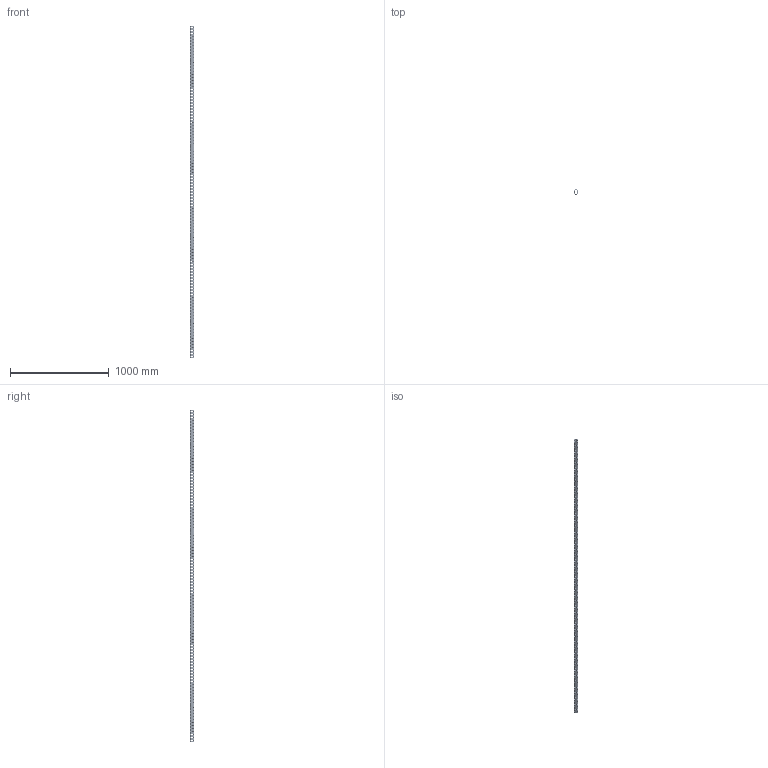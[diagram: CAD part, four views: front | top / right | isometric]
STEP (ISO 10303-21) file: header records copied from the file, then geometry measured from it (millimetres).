
FILE_DESCRIPTION(('CATIA V5 STEP Exchange'),'2;1');
FILE_NAME('U:\Room\唐宝山\EGT002\46-01-010341-01-EGT002-3358.stp','2021-08-24T07:32:31+00:00',('none'),('none'),'CATIA Version 5 Release 21 GA (IN-10)','CATIA V5 STEP AP203','none');
FILE_SCHEMA(('CONFIG_CONTROL_DESIGN'));
Products named in the file (1): 46-01-010341-01-EGT002-3358
Bounding box: 50 x 50 x 3358 mm (x, y, z)
Volume: 2392731.5 mm3; surface area: 1152341.2 mm2
Topology: 1 solids, 1 shells, 4564 faces, 12566 edges, 7780 vertices
Faces by surface type: cone 2688, cylinder 1850, plane 26
Entity records: 185359 total; most frequent: CARTESIAN_POINT 74620, ORIENTED_EDGE 25132, DIRECTION 17907, EDGE_CURVE 12566, AXIS2_PLACEMENT_3D 8510, VERTEX_POINT 7780, EDGE_LOOP 6134, VECTOR 4834
